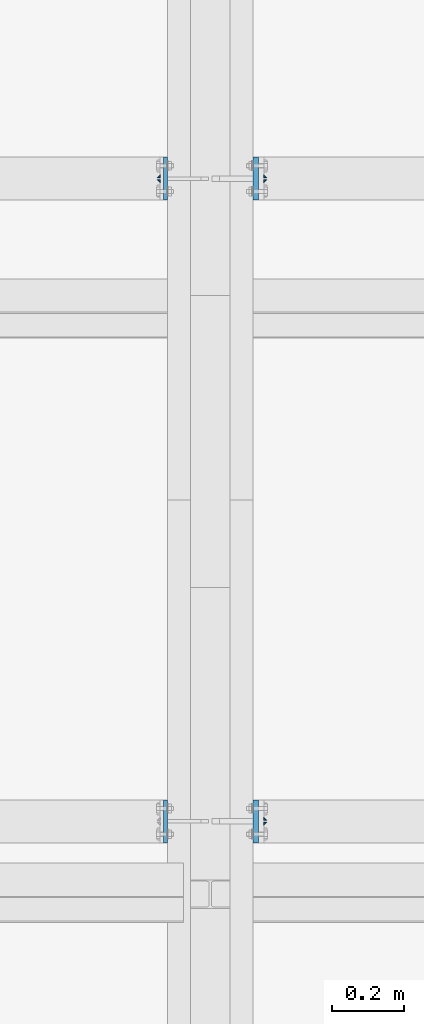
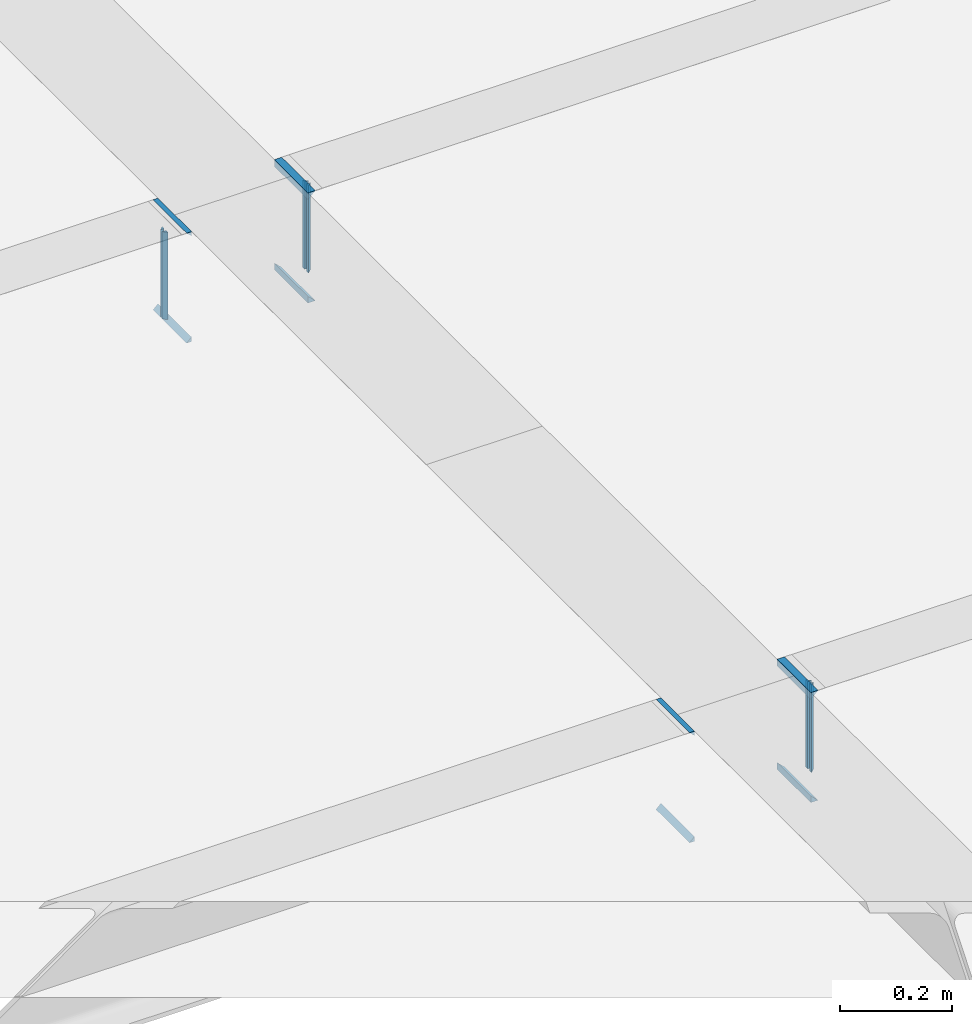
# One storey, part 20 of 66: 20 fasteners.
"""IFC4 building model written with IfcOpenShell, lengths in metres."""

from ifc_helpers import new_model, si_unit, frame, origin_with_axes, place, context, project, spatial, polyline, outline, extrude, type_object, element, save


model = new_model("IFC4")

# Units and contexts
model_context = context("Model", 3, precision=1e-05, world=origin_with_axes())
ifc_project = project(units=[si_unit("LENGTHUNIT", "METRE"), si_unit("AREAUNIT", "SQUARE_METRE"), si_unit("VOLUMEUNIT", "CUBIC_METRE"), si_unit("MASSUNIT", "GRAM", prefix="KILO"), si_unit("TIMEUNIT", "SECOND"), si_unit("PLANEANGLEUNIT", "RADIAN"), si_unit("SOLIDANGLEUNIT", "STERADIAN"), si_unit("THERMODYNAMICTEMPERATUREUNIT", "DEGREE_CELSIUS")], contexts=[model_context])

# Site, building, storey
placement_1 = place(None, origin_with_axes())
site = spatial("IfcSite", under=ifc_project, at=placement_1, Name="Italia", CompositionType="ELEMENT")
building = spatial("IfcBuilding", under=site, at=placement_1, Name="Uffici", CompositionType="ELEMENT")
storey_placement = place(None, frame((0.0, 0.0, 3.299999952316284), z_axis=(0.0, 0.0, 1.0), x_axis=(1.0, 0.0, 0.0)))
storey = spatial("IfcBuildingStorey", under=building, at=storey_placement, Name="Storey 1", CompositionType="ELEMENT", Elevation=3.299999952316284)

# Fasteners
fastener_type_1 = type_object("IfcFastenerType", Name="Collegamento -004_-003", PredefinedType="WELD")
placement_2 = place(placement_1, origin_with_axes())
fastener_1_placement = place(placement_2, origin_with_axes())
element("IfcFastener", 1, at=fastener_1_placement, inside=storey, type_object=fastener_type_1, Name="Collegamento -004_-003", context=model_context, shape_type="SweptSolid", body=[
    extrude(outline(polyline([(0.0, 0.0), (0.0101728, -0.00986814), (0.0, -0.00986814), (0.0, 0.0)])), frame((9.33505, 1.73662, 3.06982), z_axis=(0.0, 1.0, 0.0), x_axis=(-1.0, 0.0, 0.0)), (0.0, 0.0, 1.0), 0.1201),
])
fastener_type_2 = type_object("IfcFastenerType", Name="Collegamento -004_-003", PredefinedType="WELD")
fastener_2_placement = place(placement_2, origin_with_axes())
element("IfcFastener", 2, at=fastener_2_placement, inside=storey, type_object=fastener_type_2, Name="Collegamento -004_-003", context=model_context, shape_type="SweptSolid", body=[
    extrude(outline(polyline([(0.0, 0.0), (-0.0101728, 0.00986814), (0.0, 0.00986814), (0.0, 0.0)])), frame((9.33505, 1.85672, 3.29018), z_axis=(0.0, -1.0, 0.0), x_axis=(1.0, 0.0, 0.0)), (0.0, 0.0, 1.0), 0.1201),
])
fastener_type_3 = type_object("IfcFastenerType", Name="Collegamento -004_-005", PredefinedType="WELD")
fastener_3_placement = place(placement_2, origin_with_axes())
element("IfcFastener", 3, at=fastener_3_placement, inside=storey, type_object=fastener_type_3, Name="Collegamento -004_-005", context=model_context, shape_type="SweptSolid", body=[
    extrude(outline(polyline([(0.0, 0.0), (0.00792813, 0.00817299), (0.00792813, 0.0), (0.0, 0.0)])), frame((9.60495, 1.78569, 3.27525), z_axis=(0.0, 0.0, -1.0), x_axis=(0.0, 1.0, 0.0)), (0.0, 0.0, 1.0), 0.1905),
])
fastener_type_4 = type_object("IfcFastenerType", Name="Collegamento -004_-005", PredefinedType="WELD")
fastener_4_placement = place(placement_2, origin_with_axes())
element("IfcFastener", 4, at=fastener_4_placement, inside=storey, type_object=fastener_type_4, Name="Collegamento -004_-005", context=model_context, shape_type="SweptSolid", body=[
    extrude(outline(polyline([(0.0, 0.0), (-0.00792813, -0.00817299), (-0.00792813, 0.0), (0.0, 0.0)])), frame((9.60495, 1.80764, 3.08475), z_axis=(0.0, 0.0, 1.0), x_axis=(0.0, 1.0, 0.0)), (0.0, 0.0, 1.0), 0.1905),
])
fastener_type_5 = type_object("IfcFastenerType", Name="Collegamento -004_-005", PredefinedType="WELD")
fastener_5_placement = place(placement_2, origin_with_axes())
element("IfcFastener", 5, at=fastener_5_placement, inside=storey, type_object=fastener_type_5, Name="Collegamento -004_-005", context=model_context, shape_type="SweptSolid", body=[
    extrude(outline(polyline([(0.0, 0.0), (0.00792813, 0.00817299), (0.00792813, 0.0), (0.0, 0.0)])), frame((9.60495, 1.78569, 3.27525), z_axis=(0.0, 0.0, -1.0), x_axis=(0.0, 1.0, 0.0)), (0.0, 0.0, 1.0), 0.1905),
])
fastener_type_6 = type_object("IfcFastenerType", Name="Collegamento -004_-005", PredefinedType="WELD")
fastener_6_placement = place(placement_2, origin_with_axes())
element("IfcFastener", 6, at=fastener_6_placement, inside=storey, type_object=fastener_type_6, Name="Collegamento -004_-005", context=model_context, shape_type="SweptSolid", body=[
    extrude(outline(polyline([(0.0, 0.0), (-0.00792813, -0.00817299), (-0.00792813, 0.0), (0.0, 0.0)])), frame((9.60495, 1.80764, 3.08475), z_axis=(0.0, 0.0, 1.0), x_axis=(0.0, 1.0, 0.0)), (0.0, 0.0, 1.0), 0.1905),
])
fastener_type_7 = type_object("IfcFastenerType", Name="Collegamento -004_-005", PredefinedType="WELD")
fastener_7_placement = place(placement_2, origin_with_axes())
element("IfcFastener", 7, at=fastener_7_placement, inside=storey, type_object=fastener_type_7, Name="Collegamento -004_-005", context=model_context, shape_type="SweptSolid", body=[
    extrude(outline(polyline([(0.0, 0.0), (0.015173, -0.0147183), (0.0, -0.0147183), (0.0, 0.0)])), frame((9.57495, 1.85672, 3.07467), z_axis=(0.0, -1.0, 0.0), x_axis=(1.0, 0.0, 0.0)), (0.0, 0.0, 1.0), 0.1201),
])
fastener_type_8 = type_object("IfcFastenerType", Name="Collegamento -004_-005", PredefinedType="WELD")
fastener_8_placement = place(placement_2, origin_with_axes())
element("IfcFastener", 8, at=fastener_8_placement, inside=storey, type_object=fastener_type_8, Name="Collegamento -004_-005", context=model_context, shape_type="SweptSolid", body=[
    extrude(outline(polyline([(0.0, 0.0), (-0.015173, 0.0147183), (0.0, 0.0147183), (0.0, 0.0)])), frame((9.57495, 1.73662, 3.28533), z_axis=(0.0, 1.0, 0.0), x_axis=(-1.0, 0.0, 0.0)), (0.0, 0.0, 1.0), 0.1201),
])
fastener_type_9 = type_object("IfcFastenerType", Name="Collegamento -014_-013", PredefinedType="WELD")
fastener_9_placement = place(placement_2, origin_with_axes())
element("IfcFastener", 9, at=fastener_9_placement, inside=storey, type_object=fastener_type_9, Name="Collegamento -014_-013", context=model_context, shape_type="SweptSolid", body=[
    extrude(outline(polyline([(0.0, 0.0), (0.00792813, 0.00817299), (0.00792813, 0.0), (0.0, 0.0)])), frame((9.31505, 3.58236, 3.08475), z_axis=(0.0, 0.0, 1.0), x_axis=(0.0, 1.0, 0.0)), (0.0, 0.0, 1.0), 0.1905),
])
fastener_type_10 = type_object("IfcFastenerType", Name="Collegamento -014_-013", PredefinedType="WELD")
fastener_10_placement = place(placement_2, origin_with_axes())
element("IfcFastener", 10, at=fastener_10_placement, inside=storey, type_object=fastener_type_10, Name="Collegamento -014_-013", context=model_context, shape_type="SweptSolid", body=[
    extrude(outline(polyline([(0.0, 0.0), (-0.00792813, -0.00817299), (-0.00792813, 0.0), (0.0, 0.0)])), frame((9.31505, 3.60431, 3.27525), z_axis=(0.0, 0.0, -1.0), x_axis=(0.0, 1.0, 0.0)), (0.0, 0.0, 1.0), 0.1905),
])
fastener_type_11 = type_object("IfcFastenerType", Name="Collegamento -014_-013", PredefinedType="WELD")
fastener_11_placement = place(placement_2, origin_with_axes())
element("IfcFastener", 11, at=fastener_11_placement, inside=storey, type_object=fastener_type_11, Name="Collegamento -014_-013", context=model_context, shape_type="SweptSolid", body=[
    extrude(outline(polyline([(0.0, 0.0), (0.00792813, 0.00817299), (0.00792813, 0.0), (0.0, 0.0)])), frame((9.31505, 3.58236, 3.08475), z_axis=(0.0, 0.0, 1.0), x_axis=(0.0, 1.0, 0.0)), (0.0, 0.0, 1.0), 0.1905),
])
fastener_type_12 = type_object("IfcFastenerType", Name="Collegamento -014_-013", PredefinedType="WELD")
fastener_12_placement = place(placement_2, origin_with_axes())
element("IfcFastener", 12, at=fastener_12_placement, inside=storey, type_object=fastener_type_12, Name="Collegamento -014_-013", context=model_context, shape_type="SweptSolid", body=[
    extrude(outline(polyline([(0.0, 0.0), (-0.00792813, -0.00817299), (-0.00792813, 0.0), (0.0, 0.0)])), frame((9.31505, 3.60431, 3.27525), z_axis=(0.0, 0.0, -1.0), x_axis=(0.0, 1.0, 0.0)), (0.0, 0.0, 1.0), 0.1905),
])
fastener_type_13 = type_object("IfcFastenerType", Name="Collegamento -014_-013", PredefinedType="WELD")
fastener_13_placement = place(placement_2, origin_with_axes())
element("IfcFastener", 13, at=fastener_13_placement, inside=storey, type_object=fastener_type_13, Name="Collegamento -014_-013", context=model_context, shape_type="SweptSolid", body=[
    extrude(outline(polyline([(0.0, 0.0), (0.0101728, -0.00986814), (0.0, -0.00986814), (0.0, 0.0)])), frame((9.33505, 3.53328, 3.06982), z_axis=(0.0, 1.0, 0.0), x_axis=(-1.0, 0.0, 0.0)), (0.0, 0.0, 1.0), 0.1201),
])
fastener_type_14 = type_object("IfcFastenerType", Name="Collegamento -014_-013", PredefinedType="WELD")
fastener_14_placement = place(placement_2, origin_with_axes())
element("IfcFastener", 14, at=fastener_14_placement, inside=storey, type_object=fastener_type_14, Name="Collegamento -014_-013", context=model_context, shape_type="SweptSolid", body=[
    extrude(outline(polyline([(0.0, 0.0), (-0.0101728, 0.00986814), (0.0, 0.00986814), (0.0, 0.0)])), frame((9.33505, 3.65338, 3.29018), z_axis=(0.0, -1.0, 0.0), x_axis=(1.0, 0.0, 0.0)), (0.0, 0.0, 1.0), 0.1201),
])
fastener_type_15 = type_object("IfcFastenerType", Name="Collegamento -014_-015", PredefinedType="WELD")
fastener_15_placement = place(placement_2, origin_with_axes())
element("IfcFastener", 15, at=fastener_15_placement, inside=storey, type_object=fastener_type_15, Name="Collegamento -014_-015", context=model_context, shape_type="SweptSolid", body=[
    extrude(outline(polyline([(0.0, 0.0), (0.00792813, 0.00817299), (0.00792813, 0.0), (0.0, 0.0)])), frame((9.60495, 3.58236, 3.27525), z_axis=(0.0, 0.0, -1.0), x_axis=(0.0, 1.0, 0.0)), (0.0, 0.0, 1.0), 0.1905),
])
fastener_type_16 = type_object("IfcFastenerType", Name="Collegamento -014_-015", PredefinedType="WELD")
fastener_16_placement = place(placement_2, origin_with_axes())
element("IfcFastener", 16, at=fastener_16_placement, inside=storey, type_object=fastener_type_16, Name="Collegamento -014_-015", context=model_context, shape_type="SweptSolid", body=[
    extrude(outline(polyline([(0.0, 0.0), (-0.00792813, -0.00817299), (-0.00792813, 0.0), (0.0, 0.0)])), frame((9.60495, 3.60431, 3.08475), z_axis=(0.0, 0.0, 1.0), x_axis=(0.0, 1.0, 0.0)), (0.0, 0.0, 1.0), 0.1905),
])
fastener_type_17 = type_object("IfcFastenerType", Name="Collegamento -014_-015", PredefinedType="WELD")
fastener_17_placement = place(placement_2, origin_with_axes())
element("IfcFastener", 17, at=fastener_17_placement, inside=storey, type_object=fastener_type_17, Name="Collegamento -014_-015", context=model_context, shape_type="SweptSolid", body=[
    extrude(outline(polyline([(0.0, 0.0), (0.00792813, 0.00817299), (0.00792813, 0.0), (0.0, 0.0)])), frame((9.60495, 3.58236, 3.27525), z_axis=(0.0, 0.0, -1.0), x_axis=(0.0, 1.0, 0.0)), (0.0, 0.0, 1.0), 0.1905),
])
fastener_type_18 = type_object("IfcFastenerType", Name="Collegamento -014_-015", PredefinedType="WELD")
fastener_18_placement = place(placement_2, origin_with_axes())
element("IfcFastener", 18, at=fastener_18_placement, inside=storey, type_object=fastener_type_18, Name="Collegamento -014_-015", context=model_context, shape_type="SweptSolid", body=[
    extrude(outline(polyline([(0.0, 0.0), (-0.00792813, -0.00817299), (-0.00792813, 0.0), (0.0, 0.0)])), frame((9.60495, 3.60431, 3.08475), z_axis=(0.0, 0.0, 1.0), x_axis=(0.0, 1.0, 0.0)), (0.0, 0.0, 1.0), 0.1905),
])
fastener_type_19 = type_object("IfcFastenerType", Name="Collegamento -014_-015", PredefinedType="WELD")
fastener_19_placement = place(placement_2, origin_with_axes())
element("IfcFastener", 19, at=fastener_19_placement, inside=storey, type_object=fastener_type_19, Name="Collegamento -014_-015", context=model_context, shape_type="SweptSolid", body=[
    extrude(outline(polyline([(0.0, 0.0), (0.015173, -0.0147183), (0.0, -0.0147183), (0.0, 0.0)])), frame((9.57495, 3.65338, 3.07467), z_axis=(0.0, -1.0, 0.0), x_axis=(1.0, 0.0, 0.0)), (0.0, 0.0, 1.0), 0.1201),
])
fastener_type_20 = type_object("IfcFastenerType", Name="Collegamento -014_-015", PredefinedType="WELD")
fastener_20_placement = place(placement_2, origin_with_axes())
element("IfcFastener", 20, at=fastener_20_placement, inside=storey, type_object=fastener_type_20, Name="Collegamento -014_-015", context=model_context, shape_type="SweptSolid", body=[
    extrude(outline(polyline([(0.0, 0.0), (-0.015173, 0.0147183), (0.0, 0.0147183), (0.0, 0.0)])), frame((9.57495, 3.53328, 3.28533), z_axis=(0.0, 1.0, 0.0), x_axis=(-1.0, 0.0, 0.0)), (0.0, 0.0, 1.0), 0.1201),
])

save(model, "model.ifc")
